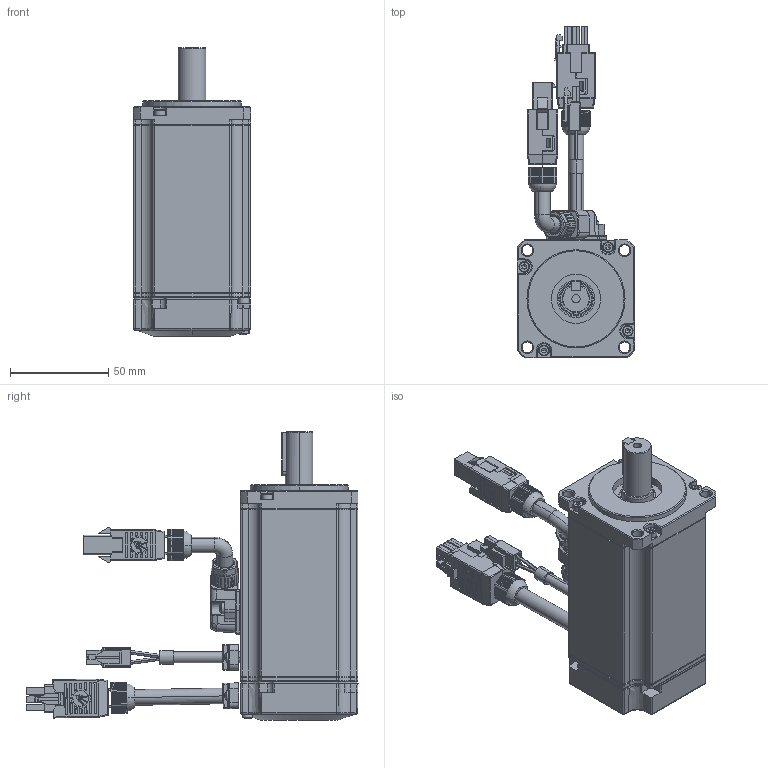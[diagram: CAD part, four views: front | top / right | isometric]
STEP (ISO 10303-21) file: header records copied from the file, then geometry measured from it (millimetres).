
FILE_DESCRIPTION (( 'STEP AP214' ), '1' );
FILE_NAME ('ACM1S-06004E2F.STEP', '2023-05-07T07:20:43', ( 'Windows 蚚誧' ), ( 'Organization' ), 'SwSTEP 2.0', 'SolidWorks 2021', '' );
FILE_SCHEMA (( 'AUTOMOTIVE_DESIGN' ));
Length unit declared in the file: millimetre
Products named in the file (1): ACM1S-06004E2F
Bounding box: 60 x 169.28 x 147 mm (x, y, z)
Surface area: 66330.4 mm2 (no closed solid volume)
Topology: 0 solids, 71 shells, 2048 faces, 7227 edges, 4999 vertices
Faces by surface type: plane 1009, cylinder 733, torus 128, cone 90, bspline 54, sphere 34
Entity records: 107143 total; most frequent: CARTESIAN_POINT 24614, DIRECTION 12297, ORIENTED_EDGE 11496, EDGE_CURVE 7200, VERTEX_POINT 4999, VECTOR 4499, LINE 4499, AXIS2_PLACEMENT_3D 3899
